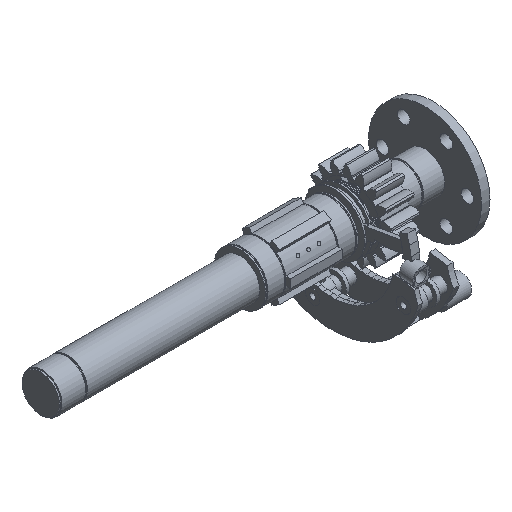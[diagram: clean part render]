
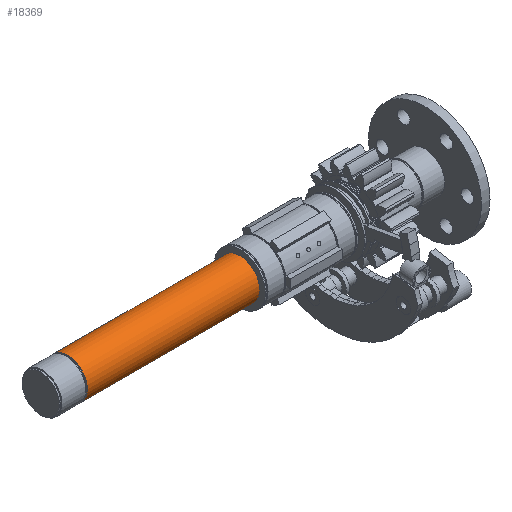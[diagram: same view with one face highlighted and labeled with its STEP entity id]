
A CAD part, isometric view. The second image highlights one B-rep face of the part: STEP entity #18369.
In plain terms, the highlighted cylindrical face has radius 7 mm (diameter 14 mm), a full revolution.
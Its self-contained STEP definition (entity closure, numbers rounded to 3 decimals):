
#7497 = PLANE('',#7498);
#7498 = AXIS2_PLACEMENT_3D('',#7499,#7500,#7501);
#7499 = CARTESIAN_POINT('',(6.5,-49.893,-53.918));
#7500 = DIRECTION('',(1.,0.,0.));
#7501 = DIRECTION('',(-0.,1.,0.));
#11410 = EDGE_CURVE('',#11411,#11411,#11413,.T.);
#11411 = VERTEX_POINT('',#11412);
#11412 = CARTESIAN_POINT('',(6.5,-42.893,-53.918));
#11413 = SURFACE_CURVE('',#11414,(#11419,#11426),.PCURVE_S1.);
#11414 = CIRCLE('',#11415,7.);
#11415 = AXIS2_PLACEMENT_3D('',#11416,#11417,#11418);
#11416 = CARTESIAN_POINT('',(6.5,-49.893,-53.918));
#11417 = DIRECTION('',(1.,0.,0.));
#11418 = DIRECTION('',(-0.,1.,0.));
#11419 = PCURVE('',#7497,#11420);
#11420 = DEFINITIONAL_REPRESENTATION('',(#11421),#11425);
#11421 = CIRCLE('',#11422,7.);
#11422 = AXIS2_PLACEMENT_2D('',#11423,#11424);
#11423 = CARTESIAN_POINT('',(0.,0.));
#11424 = DIRECTION('',(1.,0.));
#11425 = ( GEOMETRIC_REPRESENTATION_CONTEXT(2) 
PARAMETRIC_REPRESENTATION_CONTEXT() REPRESENTATION_CONTEXT('2D SPACE',''
  ) );
#11426 = PCURVE('',#11427,#11432);
#11427 = CYLINDRICAL_SURFACE('',#11428,7.);
#11428 = AXIS2_PLACEMENT_3D('',#11429,#11430,#11431);
#11429 = CARTESIAN_POINT('',(-64.,-49.893,-53.918));
#11430 = DIRECTION('',(1.,0.,0.));
#11431 = DIRECTION('',(-0.,1.,0.));
#11432 = DEFINITIONAL_REPRESENTATION('',(#11433),#11437);
#11433 = LINE('',#11434,#11435);
#11434 = CARTESIAN_POINT('',(0.,70.5));
#11435 = VECTOR('',#11436,1.);
#11436 = DIRECTION('',(1.,0.));
#11437 = ( GEOMETRIC_REPRESENTATION_CONTEXT(2) 
PARAMETRIC_REPRESENTATION_CONTEXT() REPRESENTATION_CONTEXT('2D SPACE',''
  ) );
#18369 = ADVANCED_FACE('',(#18370),#11427,.T.);
#18370 = FACE_BOUND('',#18371,.T.);
#18371 = EDGE_LOOP('',(#18372,#18401,#18422,#18423));
#18372 = ORIENTED_EDGE('',*,*,#18373,.T.);
#18373 = EDGE_CURVE('',#18374,#18374,#18376,.T.);
#18374 = VERTEX_POINT('',#18375);
#18375 = CARTESIAN_POINT('',(-54.47,-42.893,-53.918));
#18376 = SURFACE_CURVE('',#18377,(#18382,#18389),.PCURVE_S1.);
#18377 = CIRCLE('',#18378,7.);
#18378 = AXIS2_PLACEMENT_3D('',#18379,#18380,#18381);
#18379 = CARTESIAN_POINT('',(-54.47,-49.893,-53.918));
#18380 = DIRECTION('',(1.,0.,0.));
#18381 = DIRECTION('',(-0.,1.,0.));
#18382 = PCURVE('',#11427,#18383);
#18383 = DEFINITIONAL_REPRESENTATION('',(#18384),#18388);
#18384 = LINE('',#18385,#18386);
#18385 = CARTESIAN_POINT('',(0.,9.53));
#18386 = VECTOR('',#18387,1.);
#18387 = DIRECTION('',(1.,0.));
#18388 = ( GEOMETRIC_REPRESENTATION_CONTEXT(2) 
PARAMETRIC_REPRESENTATION_CONTEXT() REPRESENTATION_CONTEXT('2D SPACE',''
  ) );
#18389 = PCURVE('',#18390,#18395);
#18390 = PLANE('',#18391);
#18391 = AXIS2_PLACEMENT_3D('',#18392,#18393,#18394);
#18392 = CARTESIAN_POINT('',(-54.47,-49.893,-53.918));
#18393 = DIRECTION('',(1.,0.,0.));
#18394 = DIRECTION('',(-0.,1.,0.));
#18395 = DEFINITIONAL_REPRESENTATION('',(#18396),#18400);
#18396 = CIRCLE('',#18397,7.);
#18397 = AXIS2_PLACEMENT_2D('',#18398,#18399);
#18398 = CARTESIAN_POINT('',(0.,0.));
#18399 = DIRECTION('',(1.,0.));
#18400 = ( GEOMETRIC_REPRESENTATION_CONTEXT(2) 
PARAMETRIC_REPRESENTATION_CONTEXT() REPRESENTATION_CONTEXT('2D SPACE',''
  ) );
#18401 = ORIENTED_EDGE('',*,*,#18402,.T.);
#18402 = EDGE_CURVE('',#18374,#11411,#18403,.T.);
#18403 = SEAM_CURVE('',#18404,(#18408,#18415),.PCURVE_S1.);
#18404 = LINE('',#18405,#18406);
#18405 = CARTESIAN_POINT('',(-64.,-42.893,-53.918));
#18406 = VECTOR('',#18407,1.);
#18407 = DIRECTION('',(1.,0.,0.));
#18408 = PCURVE('',#11427,#18409);
#18409 = DEFINITIONAL_REPRESENTATION('',(#18410),#18414);
#18410 = LINE('',#18411,#18412);
#18411 = CARTESIAN_POINT('',(6.283,0.));
#18412 = VECTOR('',#18413,1.);
#18413 = DIRECTION('',(0.,1.));
#18414 = ( GEOMETRIC_REPRESENTATION_CONTEXT(2) 
PARAMETRIC_REPRESENTATION_CONTEXT() REPRESENTATION_CONTEXT('2D SPACE',''
  ) );
#18415 = PCURVE('',#11427,#18416);
#18416 = DEFINITIONAL_REPRESENTATION('',(#18417),#18421);
#18417 = LINE('',#18418,#18419);
#18418 = CARTESIAN_POINT('',(0.,0.));
#18419 = VECTOR('',#18420,1.);
#18420 = DIRECTION('',(0.,1.));
#18421 = ( GEOMETRIC_REPRESENTATION_CONTEXT(2) 
PARAMETRIC_REPRESENTATION_CONTEXT() REPRESENTATION_CONTEXT('2D SPACE',''
  ) );
#18422 = ORIENTED_EDGE('',*,*,#11410,.F.);
#18423 = ORIENTED_EDGE('',*,*,#18402,.F.);
